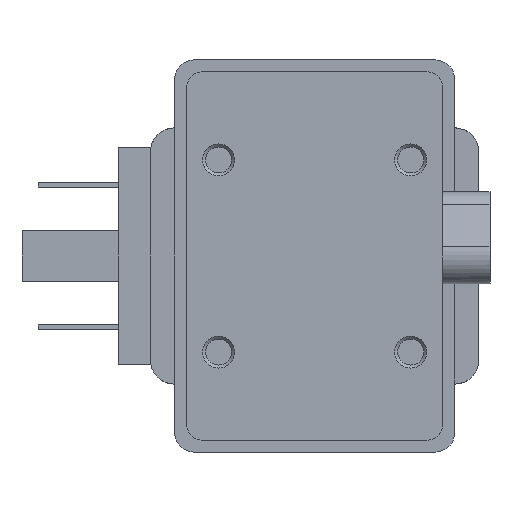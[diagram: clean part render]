
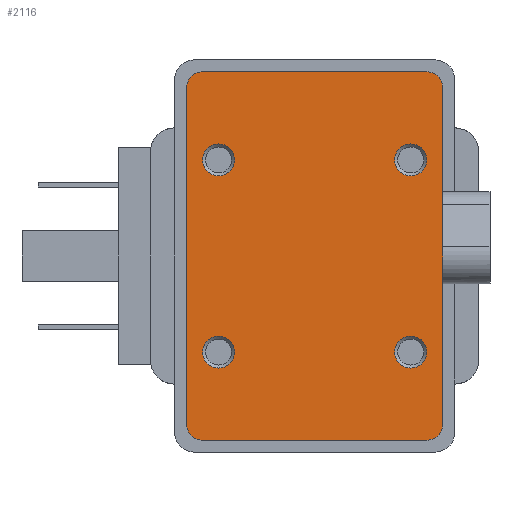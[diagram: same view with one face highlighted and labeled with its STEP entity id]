
A CAD part, front view. The second image highlights one B-rep face of the part: STEP entity #2116.
In plain terms, the highlighted planar face has unit normal (0, -1, 0).
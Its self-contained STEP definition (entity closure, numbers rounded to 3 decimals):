
#86=CIRCLE('',#2236,2.);
#87=CIRCLE('',#2239,2.);
#89=CIRCLE('',#2243,2.);
#92=CIRCLE('',#2248,2.);
#94=CIRCLE('',#2252,2.);
#95=CIRCLE('',#2253,2.);
#96=CIRCLE('',#2254,2.);
#97=CIRCLE('',#2255,2.);
#436=ORIENTED_EDGE('',*,*,#676,.F.);
#437=ORIENTED_EDGE('',*,*,#677,.F.);
#438=ORIENTED_EDGE('',*,*,#678,.F.);
#439=ORIENTED_EDGE('',*,*,#679,.F.);
#440=ORIENTED_EDGE('',*,*,#656,.F.);
#441=ORIENTED_EDGE('',*,*,#675,.F.);
#442=ORIENTED_EDGE('',*,*,#672,.F.);
#443=ORIENTED_EDGE('',*,*,#669,.F.);
#444=ORIENTED_EDGE('',*,*,#665,.F.);
#445=ORIENTED_EDGE('',*,*,#663,.F.);
#446=ORIENTED_EDGE('',*,*,#660,.F.);
#447=ORIENTED_EDGE('',*,*,#658,.F.);
#656=EDGE_CURVE('',#803,#804,#86,.T.);
#658=EDGE_CURVE('',#804,#805,#957,.T.);
#660=EDGE_CURVE('',#805,#806,#87,.T.);
#663=EDGE_CURVE('',#806,#808,#960,.T.);
#665=EDGE_CURVE('',#808,#809,#89,.T.);
#669=EDGE_CURVE('',#809,#812,#964,.T.);
#672=EDGE_CURVE('',#812,#813,#92,.T.);
#675=EDGE_CURVE('',#813,#803,#967,.T.);
#676=EDGE_CURVE('',#815,#815,#94,.T.);
#677=EDGE_CURVE('',#816,#816,#95,.T.);
#678=EDGE_CURVE('',#817,#817,#96,.T.);
#679=EDGE_CURVE('',#818,#818,#97,.T.);
#803=VERTEX_POINT('',#3046);
#804=VERTEX_POINT('',#3048);
#805=VERTEX_POINT('',#3052);
#806=VERTEX_POINT('',#3056);
#808=VERTEX_POINT('',#3062);
#809=VERTEX_POINT('',#3066);
#812=VERTEX_POINT('',#3074);
#813=VERTEX_POINT('',#3079);
#815=VERTEX_POINT('',#3087);
#816=VERTEX_POINT('',#3089);
#817=VERTEX_POINT('',#3091);
#818=VERTEX_POINT('',#3093);
#957=LINE('',#3051,#1094);
#960=LINE('',#3061,#1097);
#964=LINE('',#3073,#1101);
#967=LINE('',#3084,#1104);
#1094=VECTOR('',#2602,1000.);
#1097=VECTOR('',#2613,1000.);
#1101=VECTOR('',#2625,1000.);
#1104=VECTOR('',#2638,1000.);
#1188=EDGE_LOOP('',(#436));
#1189=EDGE_LOOP('',(#437));
#1190=EDGE_LOOP('',(#438));
#1191=EDGE_LOOP('',(#439));
#1192=EDGE_LOOP('',(#440,#441,#442,#443,#444,#445,#446,#447));
#1309=FACE_BOUND('',#1188,.T.);
#1310=FACE_BOUND('',#1189,.T.);
#1311=FACE_BOUND('',#1190,.T.);
#1312=FACE_BOUND('',#1191,.T.);
#1313=FACE_BOUND('',#1192,.T.);
#1401=PLANE('',#2251);
#2116=ADVANCED_FACE('',(#1309,#1310,#1311,#1312,#1313),#1401,.F.);
#2236=AXIS2_PLACEMENT_3D('',#3047,#2597,#2598);
#2239=AXIS2_PLACEMENT_3D('',#3055,#2606,#2607);
#2243=AXIS2_PLACEMENT_3D('',#3065,#2617,#2618);
#2248=AXIS2_PLACEMENT_3D('',#3078,#2631,#2632);
#2251=AXIS2_PLACEMENT_3D('',#3085,#2639,#2640);
#2252=AXIS2_PLACEMENT_3D('',#3086,#2641,#2642);
#2253=AXIS2_PLACEMENT_3D('',#3088,#2643,#2644);
#2254=AXIS2_PLACEMENT_3D('',#3090,#2645,#2646);
#2255=AXIS2_PLACEMENT_3D('',#3092,#2647,#2648);
#2597=DIRECTION('',(0.,1.,0.));
#2598=DIRECTION('',(1.,0.,0.));
#2602=DIRECTION('',(0.,0.,1.));
#2606=DIRECTION('',(0.,1.,0.));
#2607=DIRECTION('',(1.,0.,0.));
#2613=DIRECTION('',(1.,0.,0.));
#2617=DIRECTION('',(0.,1.,0.));
#2618=DIRECTION('',(1.,0.,0.));
#2625=DIRECTION('',(0.,0.,-1.));
#2631=DIRECTION('',(0.,1.,0.));
#2632=DIRECTION('',(1.,0.,0.));
#2638=DIRECTION('',(-1.,0.,0.));
#2639=DIRECTION('',(0.,1.,0.));
#2640=DIRECTION('',(0.,0.,1.));
#2641=DIRECTION('',(0.,-1.,0.));
#2642=DIRECTION('',(0.,0.,-1.));
#2643=DIRECTION('',(0.,-1.,0.));
#2644=DIRECTION('',(0.,0.,-1.));
#2645=DIRECTION('',(0.,-1.,0.));
#2646=DIRECTION('',(0.,0.,-1.));
#2647=DIRECTION('',(0.,-1.,0.));
#2648=DIRECTION('',(0.,0.,-1.));
#3046=CARTESIAN_POINT('',(6.5,-26.8,-39.));
#3047=CARTESIAN_POINT('',(6.5,-26.8,-37.));
#3048=CARTESIAN_POINT('',(4.5,-26.8,-37.));
#3051=CARTESIAN_POINT('',(4.5,-26.8,-37.));
#3052=CARTESIAN_POINT('',(4.5,-26.8,5.));
#3055=CARTESIAN_POINT('',(6.5,-26.8,5.));
#3056=CARTESIAN_POINT('',(6.5,-26.8,7.));
#3061=CARTESIAN_POINT('',(6.5,-26.8,7.));
#3062=CARTESIAN_POINT('',(34.5,-26.8,7.));
#3065=CARTESIAN_POINT('',(34.5,-26.8,5.));
#3066=CARTESIAN_POINT('',(36.5,-26.8,5.));
#3073=CARTESIAN_POINT('',(36.5,-26.8,5.));
#3074=CARTESIAN_POINT('',(36.5,-26.8,-37.));
#3078=CARTESIAN_POINT('',(34.5,-26.8,-37.));
#3079=CARTESIAN_POINT('',(34.5,-26.8,-39.));
#3084=CARTESIAN_POINT('',(34.5,-26.8,-39.));
#3085=CARTESIAN_POINT('',(6.5,-26.8,-37.));
#3086=CARTESIAN_POINT('',(8.5,-26.8,-28.));
#3087=CARTESIAN_POINT('',(8.5,-26.8,-30.));
#3088=CARTESIAN_POINT('',(32.5,-26.8,-4.));
#3089=CARTESIAN_POINT('',(32.5,-26.8,-6.));
#3090=CARTESIAN_POINT('',(32.5,-26.8,-28.));
#3091=CARTESIAN_POINT('',(32.5,-26.8,-30.));
#3092=CARTESIAN_POINT('',(8.5,-26.8,-4.));
#3093=CARTESIAN_POINT('',(8.5,-26.8,-6.));
